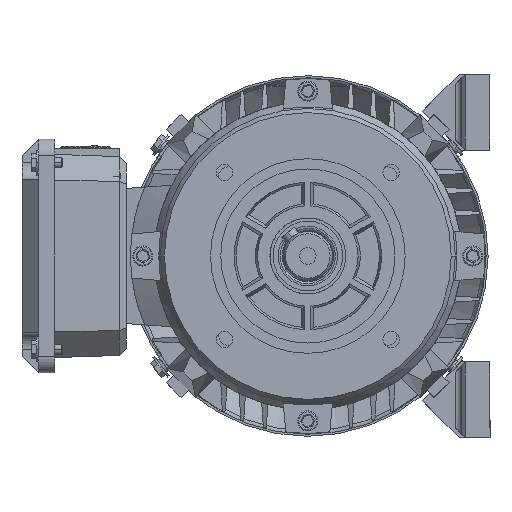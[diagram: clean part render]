
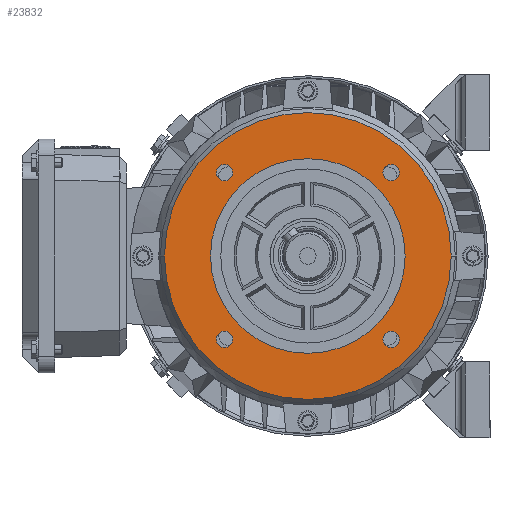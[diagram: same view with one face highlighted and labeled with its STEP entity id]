
A CAD part, left-side view. The second image highlights one B-rep face of the part: STEP entity #23832.
In plain terms, the highlighted planar face has unit normal (-1, 0, 0).
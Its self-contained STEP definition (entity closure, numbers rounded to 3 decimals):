
#375 = CARTESIAN_POINT ( 'NONE',  ( -134.026, 43.233, 40.659 ) ) ;
#2346 = ORIENTED_EDGE ( 'NONE', *, *, #103319, .T. ) ;
#5128 = FACE_OUTER_BOUND ( 'NONE', #8580, .T. ) ;
#6841 = EDGE_CURVE ( 'NONE', #91944, #75687, #110585, .T. ) ;
#7312 = EDGE_CURVE ( 'NONE', #104252, #104334, #71146, .T. ) ;
#7989 = EDGE_CURVE ( 'NONE', #12696, #77741, #37632, .T. ) ;
#8182 = CARTESIAN_POINT ( 'NONE',  ( -134.026, 2.575, 0. ) ) ;
#8373 = CARTESIAN_POINT ( 'NONE',  ( -134.026, -34.084, 40.659 ) ) ;
#8580 = EDGE_LOOP ( 'NONE', ( #31145, #89045 ) ) ;
#12038 = DIRECTION ( 'NONE',  ( 0., -1., 0. ) ) ;
#12696 = VERTEX_POINT ( 'NONE', #15785 ) ;
#14507 = ORIENTED_EDGE ( 'NONE', *, *, #107895, .T. ) ;
#14516 = EDGE_LOOP ( 'NONE', ( #69910, #37725 ) ) ;
#15321 = CARTESIAN_POINT ( 'NONE',  ( -134.026, 39.233, 40.659 ) ) ;
#15524 = VERTEX_POINT ( 'NONE', #113301 ) ;
#15785 = CARTESIAN_POINT ( 'NONE',  ( -134.026, -34.084, -40.659 ) ) ;
#16468 = DIRECTION ( 'NONE',  ( 1., 0., 0. ) ) ;
#16842 = DIRECTION ( 'NONE',  ( 0., -1., 0. ) ) ;
#20037 = DIRECTION ( 'NONE',  ( 1., 0., 0. ) ) ;
#20336 = CARTESIAN_POINT ( 'NONE',  ( -134.026, 2.575, 0. ) ) ;
#20718 = CARTESIAN_POINT ( 'NONE',  ( -134.026, -44.925, 0. ) ) ;
#23053 = CARTESIAN_POINT ( 'NONE',  ( -134.026, 2.575, -7.318 ) ) ;
#23555 = VERTEX_POINT ( 'NONE', #42981 ) ;
#23583 = AXIS2_PLACEMENT_3D ( 'NONE', #93876, #93250, #54284 ) ;
#23832 = ADVANCED_FACE ( 'NONE', ( #5128, #32936, #62624, #117749, #34122, #119541 ), #107865, .F. ) ;
#27243 = AXIS2_PLACEMENT_3D ( 'NONE', #87503, #20037, #40468 ) ;
#28029 = CIRCLE ( 'NONE', #95281, 4. ) ;
#29167 = CARTESIAN_POINT ( 'NONE',  ( -134.026, 2.575, 0. ) ) ;
#31145 = ORIENTED_EDGE ( 'NONE', *, *, #101200, .T. ) ;
#31604 = VERTEX_POINT ( 'NONE', #20718 ) ;
#32936 = FACE_BOUND ( 'NONE', #110757, .T. ) ;
#34122 = FACE_BOUND ( 'NONE', #91136, .T. ) ;
#34911 = CARTESIAN_POINT ( 'NONE',  ( -134.026, -67.425, 0. ) ) ;
#35548 = AXIS2_PLACEMENT_3D ( 'NONE', #96640, #104694, #66356 ) ;
#35834 = CIRCLE ( 'NONE', #63517, 70. ) ;
#36912 = VERTEX_POINT ( 'NONE', #50217 ) ;
#37632 = CIRCLE ( 'NONE', #53435, 4. ) ;
#37725 = ORIENTED_EDGE ( 'NONE', *, *, #7312, .T. ) ;
#38101 = DIRECTION ( 'NONE',  ( 0., 1., 0. ) ) ;
#38579 = VERTEX_POINT ( 'NONE', #56178 ) ;
#39472 = ORIENTED_EDGE ( 'NONE', *, *, #101982, .T. ) ;
#40468 = DIRECTION ( 'NONE',  ( 0., 1., 0. ) ) ;
#40997 = AXIS2_PLACEMENT_3D ( 'NONE', #20336, #58117, #113200 ) ;
#41093 = CARTESIAN_POINT ( 'NONE',  ( -134.026, 2.575, 0. ) ) ;
#41627 = DIRECTION ( 'NONE',  ( 1., 0., 0. ) ) ;
#41699 = DIRECTION ( 'NONE',  ( -1., 0., 0. ) ) ;
#42981 = CARTESIAN_POINT ( 'NONE',  ( -134.026, 50.075, 0. ) ) ;
#43296 = AXIS2_PLACEMENT_3D ( 'NONE', #23053, #41627, #81774 ) ;
#44035 = ORIENTED_EDGE ( 'NONE', *, *, #7989, .T. ) ;
#47468 = DIRECTION ( 'NONE',  ( 1., 0., 0. ) ) ;
#50217 = CARTESIAN_POINT ( 'NONE',  ( -134.026, 47.233, -40.659 ) ) ;
#50319 = EDGE_LOOP ( 'NONE', ( #85109, #115640 ) ) ;
#51679 = DIRECTION ( 'NONE',  ( 0., 1., 0. ) ) ;
#53435 = AXIS2_PLACEMENT_3D ( 'NONE', #102561, #47468, #85214 ) ;
#54284 = DIRECTION ( 'NONE',  ( 0., 1., 0. ) ) ;
#54634 = EDGE_CURVE ( 'NONE', #104334, #104252, #70384, .T. ) ;
#54852 = DIRECTION ( 'NONE',  ( 1., 0., 0. ) ) ;
#56178 = CARTESIAN_POINT ( 'NONE',  ( -134.026, 39.233, -40.659 ) ) ;
#57314 = DIRECTION ( 'NONE',  ( 0., 1., 0. ) ) ;
#58117 = DIRECTION ( 'NONE',  ( -1., 0., 0. ) ) ;
#58938 = AXIS2_PLACEMENT_3D ( 'NONE', #108622, #119719, #51679 ) ;
#62624 = FACE_BOUND ( 'NONE', #14516, .T. ) ;
#62925 = CIRCLE ( 'NONE', #94303, 47.5 ) ;
#63517 = AXIS2_PLACEMENT_3D ( 'NONE', #8182, #119606, #16842 ) ;
#64270 = EDGE_CURVE ( 'NONE', #38579, #36912, #90867, .T. ) ;
#66356 = DIRECTION ( 'NONE',  ( 0., 1., 0. ) ) ;
#66621 = CARTESIAN_POINT ( 'NONE',  ( -134.026, -38.084, -40.659 ) ) ;
#68190 = DIRECTION ( 'NONE',  ( -1., 0., 0. ) ) ;
#69910 = ORIENTED_EDGE ( 'NONE', *, *, #54634, .T. ) ;
#70384 = CIRCLE ( 'NONE', #88127, 4. ) ;
#71146 = CIRCLE ( 'NONE', #86960, 4. ) ;
#72247 = ORIENTED_EDGE ( 'NONE', *, *, #64270, .T. ) ;
#72761 = CIRCLE ( 'NONE', #58938, 4. ) ;
#73312 = DIRECTION ( 'NONE',  ( 1., 0., 0. ) ) ;
#73359 = CIRCLE ( 'NONE', #79303, 47.5 ) ;
#75687 = VERTEX_POINT ( 'NONE', #107294 ) ;
#76192 = EDGE_CURVE ( 'NONE', #23555, #31604, #62925, .T. ) ;
#77443 = DIRECTION ( 'NONE',  ( 0., -1., 0. ) ) ;
#77741 = VERTEX_POINT ( 'NONE', #92810 ) ;
#79303 = AXIS2_PLACEMENT_3D ( 'NONE', #41093, #41699, #12038 ) ;
#81774 = DIRECTION ( 'NONE',  ( 0., 0., 1. ) ) ;
#82266 = EDGE_CURVE ( 'NONE', #15524, #87062, #35834, .T. ) ;
#84448 = DIRECTION ( 'NONE',  ( 0., 1., 0. ) ) ;
#85109 = ORIENTED_EDGE ( 'NONE', *, *, #90937, .F. ) ;
#85214 = DIRECTION ( 'NONE',  ( 0., 1., 0. ) ) ;
#86960 = AXIS2_PLACEMENT_3D ( 'NONE', #101160, #73312, #84448 ) ;
#87062 = VERTEX_POINT ( 'NONE', #34911 ) ;
#87503 = CARTESIAN_POINT ( 'NONE',  ( -134.026, 43.233, -40.659 ) ) ;
#88127 = AXIS2_PLACEMENT_3D ( 'NONE', #375, #16468, #38101 ) ;
#89045 = ORIENTED_EDGE ( 'NONE', *, *, #82266, .T. ) ;
#90406 = EDGE_LOOP ( 'NONE', ( #101289, #39472 ) ) ;
#90867 = CIRCLE ( 'NONE', #35548, 4. ) ;
#90937 = EDGE_CURVE ( 'NONE', #31604, #23555, #73359, .T. ) ;
#91136 = EDGE_LOOP ( 'NONE', ( #44035, #14507 ) ) ;
#91944 = VERTEX_POINT ( 'NONE', #8373 ) ;
#92043 = CARTESIAN_POINT ( 'NONE',  ( -134.026, 47.233, 40.659 ) ) ;
#92810 = CARTESIAN_POINT ( 'NONE',  ( -134.026, -42.084, -40.659 ) ) ;
#93250 = DIRECTION ( 'NONE',  ( 1., 0., 0. ) ) ;
#93876 = CARTESIAN_POINT ( 'NONE',  ( -134.026, -38.084, 40.659 ) ) ;
#94303 = AXIS2_PLACEMENT_3D ( 'NONE', #29167, #68190, #77443 ) ;
#95281 = AXIS2_PLACEMENT_3D ( 'NONE', #66621, #54852, #57314 ) ;
#96640 = CARTESIAN_POINT ( 'NONE',  ( -134.026, 43.233, -40.659 ) ) ;
#101160 = CARTESIAN_POINT ( 'NONE',  ( -134.026, 43.233, 40.659 ) ) ;
#101200 = EDGE_CURVE ( 'NONE', #87062, #15524, #110141, .T. ) ;
#101289 = ORIENTED_EDGE ( 'NONE', *, *, #6841, .T. ) ;
#101982 = EDGE_CURVE ( 'NONE', #75687, #91944, #72761, .T. ) ;
#102561 = CARTESIAN_POINT ( 'NONE',  ( -134.026, -38.084, -40.659 ) ) ;
#103319 = EDGE_CURVE ( 'NONE', #36912, #38579, #118183, .T. ) ;
#104252 = VERTEX_POINT ( 'NONE', #15321 ) ;
#104334 = VERTEX_POINT ( 'NONE', #92043 ) ;
#104694 = DIRECTION ( 'NONE',  ( 1., 0., 0. ) ) ;
#107294 = CARTESIAN_POINT ( 'NONE',  ( -134.026, -42.084, 40.659 ) ) ;
#107865 = PLANE ( 'NONE',  #43296 ) ;
#107895 = EDGE_CURVE ( 'NONE', #77741, #12696, #28029, .T. ) ;
#108622 = CARTESIAN_POINT ( 'NONE',  ( -134.026, -38.084, 40.659 ) ) ;
#110141 = CIRCLE ( 'NONE', #40997, 70. ) ;
#110585 = CIRCLE ( 'NONE', #23583, 4. ) ;
#110757 = EDGE_LOOP ( 'NONE', ( #2346, #72247 ) ) ;
#113200 = DIRECTION ( 'NONE',  ( 0., -1., 0. ) ) ;
#113301 = CARTESIAN_POINT ( 'NONE',  ( -134.026, 72.575, 0. ) ) ;
#115640 = ORIENTED_EDGE ( 'NONE', *, *, #76192, .F. ) ;
#117749 = FACE_BOUND ( 'NONE', #90406, .T. ) ;
#118183 = CIRCLE ( 'NONE', #27243, 4. ) ;
#119541 = FACE_BOUND ( 'NONE', #50319, .T. ) ;
#119606 = DIRECTION ( 'NONE',  ( -1., 0., 0. ) ) ;
#119719 = DIRECTION ( 'NONE',  ( 1., 0., 0. ) ) ;
